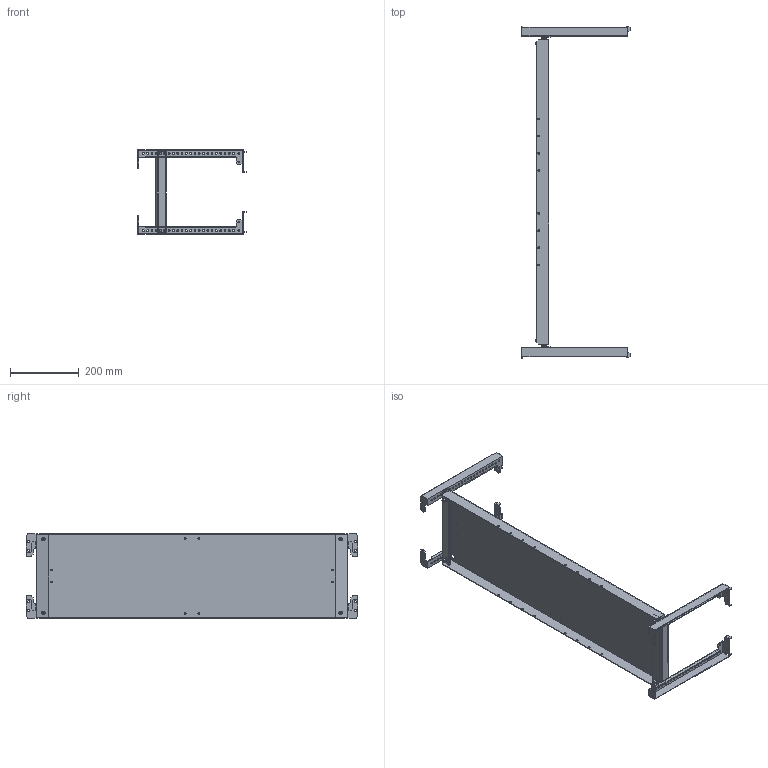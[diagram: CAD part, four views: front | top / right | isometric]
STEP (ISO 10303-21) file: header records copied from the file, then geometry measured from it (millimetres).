
FILE_DESCRIPTION (( 'STEP AP214' ), '1' );
FILE_NAME ('FO-00-MPU-025-100 Ïàíåëü ìîíòàæíàÿ óíèâåðñàëüíàÿ 250õ1000 ìì.STEP', '2025-07-16T07:08:44', ( '' ), ( '' ), 'SwSTEP 2.0', 'SolidWorks 2023', '' );
FILE_SCHEMA (( 'AUTOMOTIVE_DESIGN' ));
Length unit declared in the file: millimetre
Products named in the file (5): Траверса горизонтальнаяD; Траверса горизонтальная; Панель монтажная универсальная 250х1000 мм; Винты DIN 912 4xM6x20 250x1000; FO-00-MPU-025-100 Панель монтажная универсальная 250х1000 мм
Assembly tree (6 placements, depth 2):
  FO-00-MPU-025-100 Панель монтажная универсальная 250х1000 мм
    Панель монтажная универсальная 250х1000 мм
    Винты DIN 912 4xM6x20 250x1000
    Траверса горизонтальная  x2
    Траверса горизонтальнаяD  x2
Bounding box: 314.5 x 966 x 247 mm (x, y, z)
Volume: 829717.6 mm3; surface area: 847697.9 mm2
Topology: 9 solids, 13 shells, 994 faces, 2716 edges, 1796 vertices
Faces by surface type: cylinder 460, plane 442, cone 60, torus 32
Entity records: 27775 total; most frequent: CARTESIAN_POINT 7575, DIRECTION 4210, ORIENTED_EDGE 4100, EDGE_CURVE 2050, AXIS2_PLACEMENT_3D 1541, VERTEX_POINT 1352, VECTOR 1128, LINE 1128
